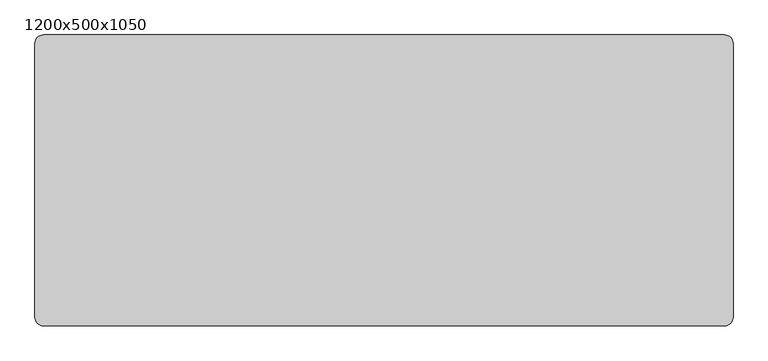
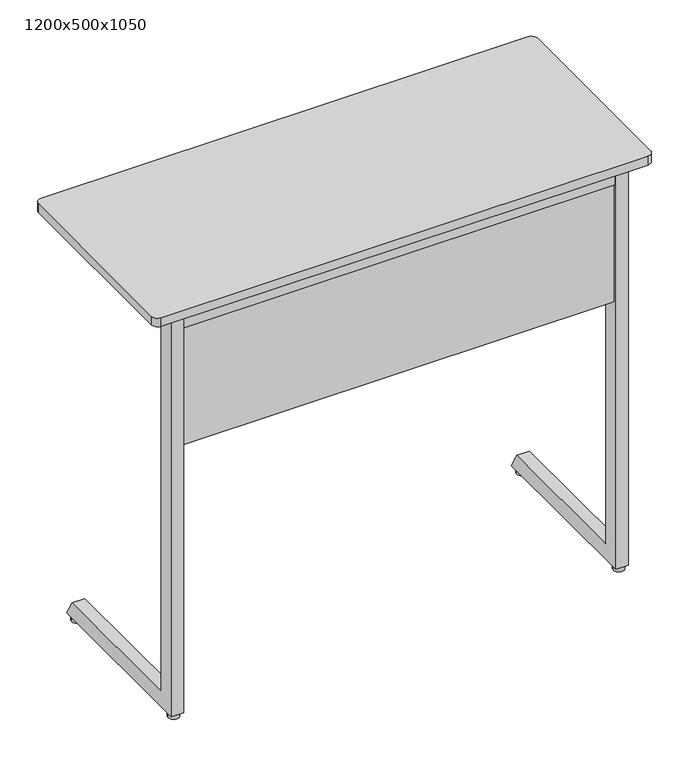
"""IFC4 building model written with IfcOpenShell, lengths in millimetres: furniture geometry, Trivia Light : 1200x500x1050."""

from ifc_helpers import new_model, si_unit, point, frame, frame_2d, origin, origin_with_axes, place, context, project, spatial, polyline, circle_curve, trimmed, segment, composite_curve, outline, extrude, source, transform, mapped, element, save


def furniture_1200x500x1050_40dc150c(model_context):
    return source(origin(), model_context, "Body", "SweptSolid", [
        extrude(outline(polyline([(434.5100173, 1028.0), (419.9996059, 996.4981092), (54.0, 996.4977978), (54.0, 1028.0), (434.5100173, 1028.0)])), frame((-464.7535601, 0.0, 0.0), z_axis=(1.0, 0.0, 0.0), x_axis=(0.0, 1.0, 0.0)), (0.0, 0.0, 1.0), 30.0),
        extrude(outline(polyline([(1023.7997437, -467.7502136), (1000.730957, -467.7502136), (1000.730957, -499.8065042), (1005.0394353, -511.6439509), (1002.2203574, -512.6700113), (997.730957, -500.3354852), (997.730957, -464.7502136), (1023.7997437, -464.7502136), (1023.7997437, -467.7502136)])), frame((0.0, 215.0, 0.0), z_axis=(0.0, 1.0, 0.0), x_axis=(0.0, 0.0, 1.0)), (0.0, 0.0, 1.0), 30.0),
        extrude(outline(polyline([(1023.7997437, 467.7535601), (1023.7997437, 464.7535601), (997.730957, 464.7535601), (997.730957, 500.3388316), (1002.2203574, 512.6733577), (1005.0394353, 511.6472973), (1000.730957, 499.8098507), (1000.730957, 467.7535601), (1023.7997437, 467.7535601)])), frame((0.0, 215.0, 0.0), z_axis=(0.0, 1.0, 0.0), x_axis=(0.0, 0.0, 1.0)), (0.0, 0.0, 1.0), 30.0),
        extrude(outline(composite_curve([segment(trimmed(circle_curve(frame_2d((-535.0, 35.0)), 13.0), [point((-548.0, 35.0))], [point((-522.0, 35.0))], False, "CARTESIAN"), True, "CONTINUOUS"), segment(trimmed(circle_curve(frame_2d((-535.0, 35.0)), 13.0), [point((-522.0, 35.0))], [point((-548.0, 35.0))], False, "CARTESIAN"), True, "CONTINUOUS")], self_intersect=False)), origin_with_axes(), (0.0, 0.0, 1.0), 13.0905762),
        extrude(outline(composite_curve([segment(trimmed(circle_curve(frame_2d((535.0, 35.0)), 13.0), [point((522.0, 35.0))], [point((548.0, 35.0))], False, "CARTESIAN"), True, "CONTINUOUS"), segment(trimmed(circle_curve(frame_2d((535.0, 35.0)), 13.0), [point((548.0, 35.0))], [point((522.0, 35.0))], False, "CARTESIAN"), True, "CONTINUOUS")], self_intersect=False)), origin_with_axes(), (0.0, 0.0, 1.0), 13.0905762),
        extrude(outline(composite_curve([segment(trimmed(circle_curve(frame_2d((535.0, 437.5)), 13.0), [point((522.0, 437.5))], [point((548.0, 437.5))], False, "CARTESIAN"), True, "CONTINUOUS"), segment(trimmed(circle_curve(frame_2d((535.0, 437.5)), 13.0), [point((548.0, 437.5))], [point((522.0, 437.5))], False, "CARTESIAN"), True, "CONTINUOUS")], self_intersect=False)), origin_with_axes(), (0.0, 0.0, 1.0), 13.0905762),
        extrude(outline(composite_curve([segment(trimmed(circle_curve(frame_2d((-535.0, 437.5)), 13.0), [point((-548.0, 437.5))], [point((-522.0, 437.5))], False, "CARTESIAN"), True, "CONTINUOUS"), segment(trimmed(circle_curve(frame_2d((-535.0, 437.5)), 13.0), [point((-522.0, 437.5))], [point((-548.0, 437.5))], False, "CARTESIAN"), True, "CONTINUOUS")], self_intersect=False)), origin_with_axes(), (0.0, 0.0, 1.0), 13.0905762),
        extrude(outline(polyline([(434.5100173, 1028.0), (419.9996059, 996.4981092), (54.0, 996.4977978), (54.0, 1028.0), (434.5100173, 1028.0)])), frame((434.7535601, 0.0, 0.0), z_axis=(1.0, 0.0, 0.0), x_axis=(0.0, 1.0, 0.0)), (0.0, 0.0, 1.0), 30.0),
        extrude(outline(composite_curve([segment(trimmed(circle_curve(frame_2d((585.0, 485.0)), 15.0), [point((585.0, 500.0))], [point((600.0, 485.0))], False, "CARTESIAN"), True, "CONTINUOUS"), segment(polyline([(600.0, 485.0), (600.0, 15.0)]), True, "CONTINUOUS"), segment(trimmed(circle_curve(frame_2d((585.0, 15.0)), 15.0), [point((600.0, 15.0))], [point((585.0, 0.0))], False, "CARTESIAN"), True, "CONTINUOUS"), segment(polyline([(585.0, 0.0), (-585.0, 0.0)]), True, "CONTINUOUS"), segment(trimmed(circle_curve(frame_2d((-585.0, 15.0)), 15.0), [point((-585.0, 0.0))], [point((-600.0, 15.0))], False, "CARTESIAN"), True, "CONTINUOUS"), segment(polyline([(-600.0, 15.0), (-600.0, 485.0)]), True, "CONTINUOUS"), segment(trimmed(circle_curve(frame_2d((-585.0, 485.0)), 15.0), [point((-600.0, 485.0))], [point((-585.0, 500.0))], False, "CARTESIAN"), True, "CONTINUOUS"), segment(polyline([(-585.0, 500.0), (585.0, 500.0)]), True, "CONTINUOUS")], self_intersect=False)), frame((0.0, 0.0, 1028.0), z_axis=(0.0, 0.0, 1.0), x_axis=(1.0, 0.0, 0.0)), (0.0, 0.0, 1.0), 22.0),
        extrude(outline(polyline([(519.7534307, 54.0), (519.7534307, 24.0), (-519.7534307, 24.0), (-519.7534307, 54.0), (519.7534307, 54.0)])), frame((0.0, 0.0, 986.0), z_axis=(0.0, 0.0, 1.0), x_axis=(1.0, 0.0, 0.0)), (0.0, 0.0, 1.0), 42.0),
        extrude(outline(polyline([(62.0, 51.5905762), (432.1448423, 51.5905762), (454.8944033, 11.5905762), (20.0, 11.5905762), (20.0, 1028.0), (62.0, 1028.0), (62.0, 51.5905762)])), frame((-549.7535601, 0.0, 0.0), z_axis=(1.0, 0.0, 0.0), x_axis=(0.0, 1.0, 0.0)), (0.0, 0.0, 1.0), 30.0001294),
        extrude(outline(polyline([(62.0, 51.5905762), (432.1448423, 51.5905762), (454.8944033, 11.5905762), (20.0, 11.5905762), (20.0, 1028.0), (62.0, 1028.0), (62.0, 51.5905762)])), frame((519.7534307, 0.0, 0.0), z_axis=(1.0, 0.0, 0.0), x_axis=(0.0, 1.0, 0.0)), (0.0, 0.0, 1.0), 30.0001294),
        extrude(outline(polyline([(519.7534307, 45.9187166), (519.7534307, 27.9321552), (-519.7534307, 27.9321552), (-519.7534307, 45.9187166), (519.7534307, 45.9187166)])), frame((0.0, 0.0, 686.5950628), z_axis=(0.0, 0.0, 1.0), x_axis=(1.0, 0.0, 0.0)), (0.0, 0.0, 1.0), 299.4049372),
    ])


if __name__ == "__main__":
    model = new_model("IFC4")
    model_context = context("Model", 3, world=origin())
    ifc_project = project(units=[si_unit("LENGTHUNIT", "METRE", prefix="MILLI")], contexts=[model_context])
    site = spatial("IfcSite", under=ifc_project)
    building = spatial("IfcBuilding", under=site)
    placement = place(None, origin())
    furniture_1200x500x1050_shape = furniture_1200x500x1050_40dc150c(model_context)
    element("IfcFurniture", 1, ObjectType="Trivia Light : 1200x500x1050", at=placement, inside=building, context=model_context, shape_type="MappedRepresentation", body=[
        mapped(furniture_1200x500x1050_shape, transform((0.0, 0.0, 0.0), x_axis=(1.0, 0.0, 0.0), y_axis=(0.0, 1.0, 0.0), z_axis=(0.0, 0.0, 1.0))),
    ])
    save(model, "model.ifc")
